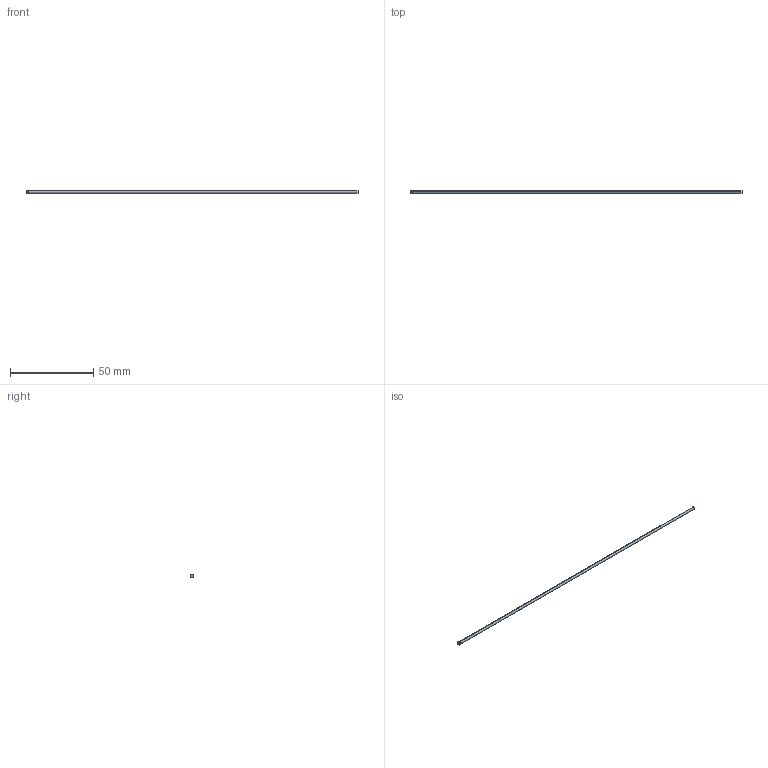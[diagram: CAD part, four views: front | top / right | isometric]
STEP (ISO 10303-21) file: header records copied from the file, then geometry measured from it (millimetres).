
FILE_DESCRIPTION (( 'STEP AP214' ), '1' );
FILE_NAME ('D-1,5x200.STEP', '2020-06-08T09:21:03', ( 'August' ), ( '' ), 'SwSTEP 2.0', 'SolidWorks 2018', '' );
FILE_SCHEMA (( 'AUTOMOTIVE_DESIGN' ));
Length unit declared in the file: millimetre
Products named in the file (1): D-1,5x200
Bounding box: 200 x 2.2 x 2.2 mm (x, y, z)
Volume: 355.1 mm3; surface area: 950.3 mm2
Topology: 1 solids, 1 shells, 10 faces, 18 edges, 10 vertices
Faces by surface type: cylinder 4, torus 2, cone 2, plane 2
Entity records: 280 total; most frequent: DIRECTION 52, CARTESIAN_POINT 39, ORIENTED_EDGE 36, AXIS2_PLACEMENT_3D 23, EDGE_CURVE 18, CIRCLE 12, EDGE_LOOP 10, ADVANCED_FACE 10
